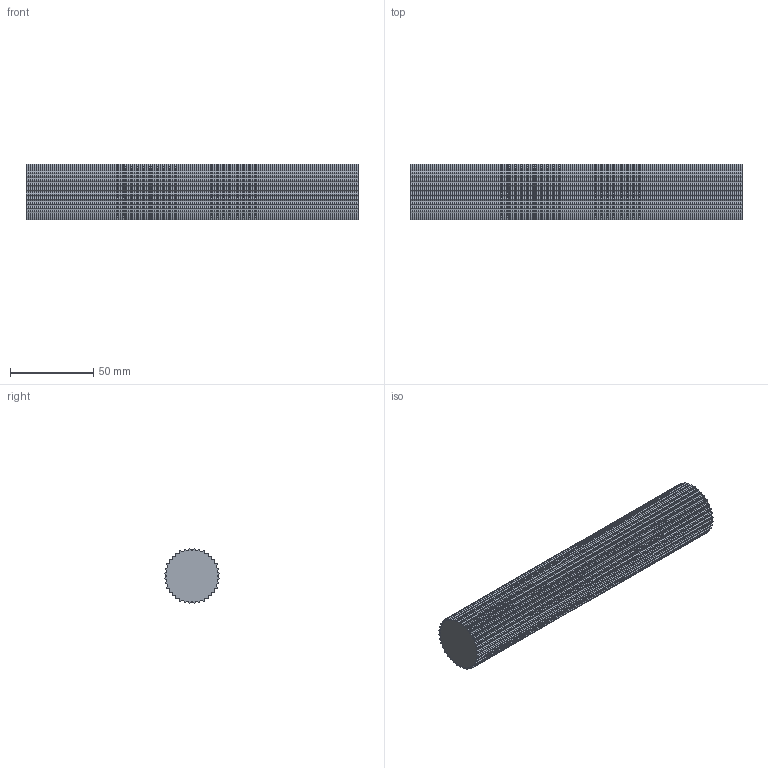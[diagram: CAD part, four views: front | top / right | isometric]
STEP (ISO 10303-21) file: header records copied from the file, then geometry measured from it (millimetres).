
FILE_DESCRIPTION( ( 'STEP AP214' ), '1' );
FILE_NAME( 'C:/Users/StangenbergN/Desktop/Steps Zahnriemenräder/K166_HTD-Zahnwellen/17093600.stp', '2019-06-06T09:34:58', ( '' ), ( '' ), ' ', 'PARTsolutions', ' ' );
FILE_SCHEMA( ( 'AUTOMOTIVE_DESIGN { 1 0 10303 214 1 1 1 1 }' ) );
Length unit declared in the file: millimetre
Products named in the file (1): _17093600
Bounding box: 200 x 33.5 x 33.5 mm (x, y, z)
Volume: 162212.8 mm3; surface area: 30439.8 mm2
Topology: 1 solids, 1 shells, 290 faces, 864 edges, 576 vertices
Faces by surface type: cylinder 180, plane 110
Entity records: 12224 total; most frequent: DIRECTION 1806, CARTESIAN_POINT 1731, ORIENTED_EDGE 1728, EDGE_CURVE 864, AXIS2_PLACEMENT_3D 651, VERTEX_POINT 576, LINE 504, VECTOR 504
